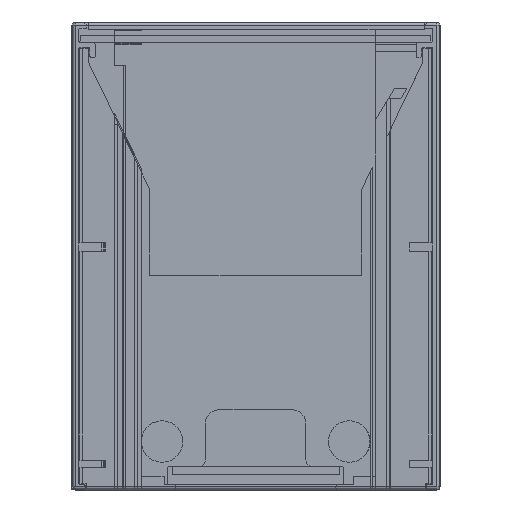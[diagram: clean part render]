
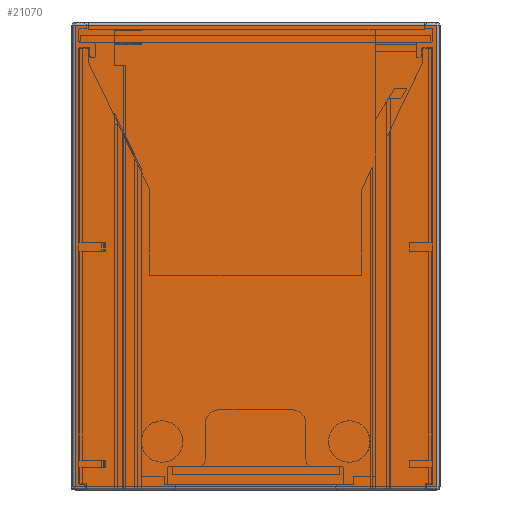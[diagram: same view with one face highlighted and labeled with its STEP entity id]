
A CAD part, front view. The second image highlights one B-rep face of the part: STEP entity #21070.
In plain terms, the highlighted planar face has unit normal (0, -1, 0) as drawn and (0, 0, 1) by its records, which use the part's own axes.
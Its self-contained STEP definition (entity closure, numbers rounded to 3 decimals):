
#19791=DIRECTION('',(0.,-1.,0.));
#19792=VECTOR('',#19791,69.);
#19793=CARTESIAN_POINT('',(27.,23.45,2.15));
#19794=LINE('',#19793,#19792);
#19830=DIRECTION('',(1.,0.,0.));
#19831=VECTOR('',#19830,54.);
#19832=CARTESIAN_POINT('',(-27.,23.45,2.15));
#19833=LINE('',#19832,#19831);
#19849=DIRECTION('',(0.,1.,0.));
#19850=VECTOR('',#19849,69.);
#19851=CARTESIAN_POINT('',(-27.,-45.55,2.15));
#19852=LINE('',#19851,#19850);
#19857=DIRECTION('',(-1.,0.,0.));
#19858=VECTOR('',#19857,54.);
#19859=CARTESIAN_POINT('',(27.,-45.55,2.15));
#19860=LINE('',#19859,#19858);
#20334=CARTESIAN_POINT('',(-27.,23.45,2.15));
#20335=CARTESIAN_POINT('',(27.,23.45,2.15));
#20336=VERTEX_POINT('',#20334);
#20337=VERTEX_POINT('',#20335);
#20350=CARTESIAN_POINT('',(27.,-45.55,2.15));
#20351=VERTEX_POINT('',#20350);
#20393=CARTESIAN_POINT('',(-27.,-45.55,2.15));
#20394=VERTEX_POINT('',#20393);
#21058=CARTESIAN_POINT('',(0.,0.,2.15));
#21059=DIRECTION('',(0.,0.,-1.));
#21060=DIRECTION('',(-1.,0.,0.));
#21061=AXIS2_PLACEMENT_3D('',#21058,#21059,#21060);
#21062=PLANE('',#21061);
#21063=ORIENTED_EDGE('',*,*,#21049,.T.);
#21064=ORIENTED_EDGE('',*,*,#21025,.T.);
#21065=ORIENTED_EDGE('',*,*,#20950,.T.);
#21067=ORIENTED_EDGE('',*,*,#21066,.T.);
#21068=EDGE_LOOP('',(#21063,#21064,#21065,#21067));
#21069=FACE_OUTER_BOUND('',#21068,.F.);
#21070=ADVANCED_FACE('',(#21069),#21062,.F.);
#20950=EDGE_CURVE('',#20337,#20351,#19794,.T.);
#21025=EDGE_CURVE('',#20336,#20337,#19833,.T.);
#21049=EDGE_CURVE('',#20394,#20336,#19852,.T.);
#21066=EDGE_CURVE('',#20351,#20394,#19860,.T.);
